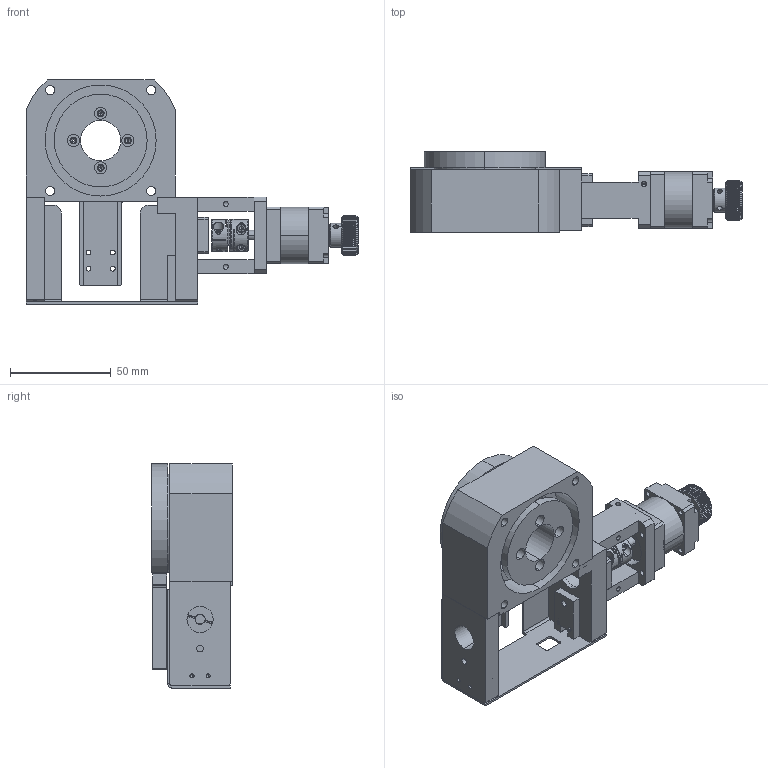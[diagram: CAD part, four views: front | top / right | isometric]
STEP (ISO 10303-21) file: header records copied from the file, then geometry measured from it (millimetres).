
FILE_DESCRIPTION (( 'STEP AP203' ), '1' );
FILE_NAME ('JMR-60L.STEP', '2019-02-18T05:36:22', ( 'Windows 餌辨濠' ), ( '' ), 'SwSTEP 2.0', 'SolidWorks 2018', '' );
FILE_SCHEMA (( 'CONFIG_CONTROL_DESIGN' ));
Length unit declared in the file: millimetre
Products named in the file (1): JMR-60L
Bounding box: 164.5 x 40 x 111 mm (x, y, z)
Surface area: 85384.8 mm2 (no closed solid volume)
Topology: 0 solids, 20 shells, 1020 faces, 2754 edges, 1747 vertices
Faces by surface type: cylinder 508, plane 389, cone 123
Entity records: 35461 total; most frequent: CARTESIAN_POINT 10188, ORIENTED_EDGE 5258, DIRECTION 5125, EDGE_CURVE 2674, AXIS2_PLACEMENT_3D 1922, VERTEX_POINT 1747, VECTOR 1281, LINE 1281
